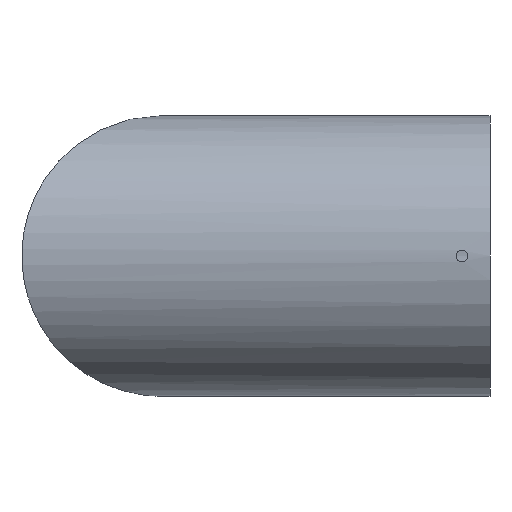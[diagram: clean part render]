
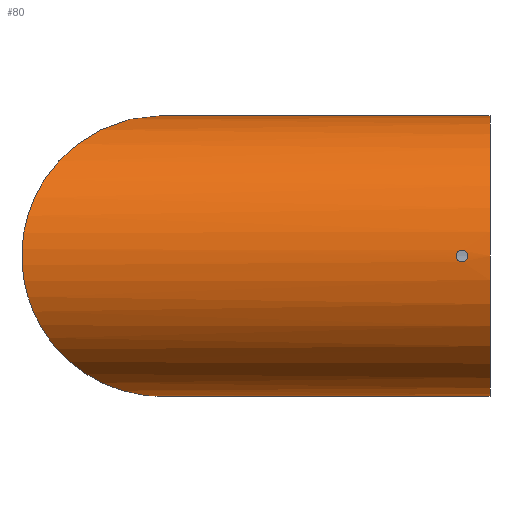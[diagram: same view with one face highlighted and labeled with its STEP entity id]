
A CAD part, left-side view. The second image highlights one B-rep face of the part: STEP entity #80.
In plain terms, the highlighted cylindrical face has radius 30 mm (diameter 60 mm), a partial arc.
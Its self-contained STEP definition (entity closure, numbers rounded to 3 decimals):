
#5 = CARTESIAN_POINT ( 'NONE',  ( -29.974, 5.837, -1.25 ) ) ;
#6 = LINE ( 'NONE', #333, #337 ) ;
#7 = CARTESIAN_POINT ( 'NONE',  ( -30., 4.75, 0.164 ) ) ;
#10 = CARTESIAN_POINT ( 'NONE',  ( -29.984, 6.767, -1. ) ) ;
#11 = CARTESIAN_POINT ( 'NONE',  ( -30., 4.75, -0.166 ) ) ;
#13 = CARTESIAN_POINT ( 'NONE',  ( -29.999, 7.217, 0.328 ) ) ;
#24 = CARTESIAN_POINT ( 'NONE',  ( -60., 130., -30. ) ) ;
#31 = ORIENTED_EDGE ( 'NONE', *, *, #44, .T. ) ;
#32 = DIRECTION ( 'NONE',  ( 0., -1., 0. ) ) ;
#40 = CARTESIAN_POINT ( 'NONE',  ( -29.974, 5.835, 1.25 ) ) ;
#43 = CARTESIAN_POINT ( 'NONE',  ( -29.975, 5.673, 1.218 ) ) ;
#44 = EDGE_CURVE ( 'NONE', #382, #323, #6, .T. ) ;
#47 = CARTESIAN_POINT ( 'NONE',  ( -29.975, 6.327, 1.217 ) ) ;
#55 = CARTESIAN_POINT ( 'NONE',  ( 0., 70., -30. ) ) ;
#60 = ORIENTED_EDGE ( 'NONE', *, *, #201, .T. ) ;
#72 = CARTESIAN_POINT ( 'NONE',  ( -29.994, 7.092, -0.629 ) ) ;
#80 = ADVANCED_FACE ( 'NONE', ( #265, #380 ), #182, .T. ) ;
#86 = AXIS2_PLACEMENT_3D ( 'NONE', #238, #122, #354 ) ;
#88 = CARTESIAN_POINT ( 'NONE',  ( 0., 0., 30. ) ) ;
#90 = B_SPLINE_CURVE_WITH_KNOTS ( 'NONE', 3,
 ( #133, #253, #282, #226, #10, #341, #72, #199, #131, #103, #312, #368, #13, #135, #225, #339, #202, #47, #338, #307 ),
 .UNSPECIFIED., .F., .F.,
 ( 4, 2, 2, 2, 2, 2, 2, 2, 2, 4 ),
 ( 0.002, 0.002, 0.003, 0.003, 0.004, 0.004, 0.004, 0.005, 0.005, 0.006 ),
 .UNSPECIFIED. ) ;
#97 = CARTESIAN_POINT ( 'NONE',  ( -29.98, 5.372, -1.093 ) ) ;
#100 = CARTESIAN_POINT ( 'NONE',  ( -29.985, 5.174, 0.941 ) ) ;
#101 = CARTESIAN_POINT ( 'NONE',  ( -29.999, 4.783, -0.328 ) ) ;
#103 = CARTESIAN_POINT ( 'NONE',  ( -30., 7.242, -0.164 ) ) ;
#108 = B_SPLINE_CURVE_WITH_KNOTS ( 'NONE', 3,
 ( #194, #40, #43, #366, #162, #278, #100, #192, #130, #251, #7, #11, #101, #132, #365, #363, #97, #361, #5, #221 ),
 .UNSPECIFIED., .F., .F.,
 ( 4, 2, 2, 2, 2, 2, 2, 2, 2, 4 ),
 ( 0.006, 0.006, 0.007, 0.007, 0.007, 0.008, 0.008, 0.009, 0.009, 0.01 ),
 .UNSPECIFIED. ) ;
#112 = VECTOR ( 'NONE', #32, 1000. ) ;
#122 = DIRECTION ( 'NONE',  ( 0., -1., 0. ) ) ;
#123 = CARTESIAN_POINT ( 'NONE',  ( -60., 130., 30. ) ) ;
#127 = CARTESIAN_POINT ( 'NONE',  ( -29.974, 6., -1.25 ) ) ;
#130 = CARTESIAN_POINT ( 'NONE',  ( -29.994, 4.908, 0.629 ) ) ;
#131 = CARTESIAN_POINT ( 'NONE',  ( -29.998, 7.21, -0.324 ) ) ;
#132 = CARTESIAN_POINT ( 'NONE',  ( -29.994, 4.908, -0.631 ) ) ;
#133 = CARTESIAN_POINT ( 'NONE',  ( -29.974, 6., -1.25 ) ) ;
#134 = CIRCLE ( 'NONE', #254, 30. ) ;
#135 = CARTESIAN_POINT ( 'NONE',  ( -29.994, 7.092, 0.629 ) ) ;
#136 =( BOUNDED_CURVE ( )  B_SPLINE_CURVE ( 3, ( #381, #123, #24, #239 ),
 .UNSPECIFIED., .F., .T. ) 
 B_SPLINE_CURVE_WITH_KNOTS ( ( 4, 4 ),
 ( 1.571, 4.712 ),
 .UNSPECIFIED. ) 
 CURVE ( )  GEOMETRIC_REPRESENTATION_ITEM ( )  RATIONAL_B_SPLINE_CURVE ( ( 1., 0.333, 0.333, 1. ) ) 
 REPRESENTATION_ITEM ( '' )  );
#145 = EDGE_CURVE ( 'NONE', #326, #387, #384, .T. ) ;
#155 = DIRECTION ( 'NONE',  ( 0., 1., 0. ) ) ;
#162 = CARTESIAN_POINT ( 'NONE',  ( -29.98, 5.374, 1.085 ) ) ;
#171 = EDGE_CURVE ( 'NONE', #270, #264, #90, .T. ) ;
#182 = CYLINDRICAL_SURFACE ( 'NONE', #86, 30. ) ;
#187 = ORIENTED_EDGE ( 'NONE', *, *, #281, .T. ) ;
#192 = CARTESIAN_POINT ( 'NONE',  ( -29.99, 5.001, 0.768 ) ) ;
#194 = CARTESIAN_POINT ( 'NONE',  ( -29.974, 6., 1.25 ) ) ;
#199 = CARTESIAN_POINT ( 'NONE',  ( -29.997, 7.186, -0.402 ) ) ;
#201 = EDGE_CURVE ( 'NONE', #264, #270, #108, .T. ) ;
#202 = CARTESIAN_POINT ( 'NONE',  ( -29.98, 6.63, 1.092 ) ) ;
#214 = ORIENTED_EDGE ( 'NONE', *, *, #289, .T. ) ;
#221 = CARTESIAN_POINT ( 'NONE',  ( -29.974, 6., -1.25 ) ) ;
#224 = CARTESIAN_POINT ( 'NONE',  ( -29.974, 6., 1.25 ) ) ;
#225 = CARTESIAN_POINT ( 'NONE',  ( -29.99, 6.999, 0.769 ) ) ;
#226 = CARTESIAN_POINT ( 'NONE',  ( -29.98, 6.63, -1.092 ) ) ;
#238 = CARTESIAN_POINT ( 'NONE',  ( 0., 100., 0. ) ) ;
#239 = CARTESIAN_POINT ( 'NONE',  ( 0., 70., -30. ) ) ;
#242 = CARTESIAN_POINT ( 'NONE',  ( 0., 70., 30. ) ) ;
#243 = ORIENTED_EDGE ( 'NONE', *, *, #171, .T. ) ;
#251 = CARTESIAN_POINT ( 'NONE',  ( -29.999, 4.783, 0.328 ) ) ;
#253 = CARTESIAN_POINT ( 'NONE',  ( -29.974, 6.163, -1.25 ) ) ;
#254 = AXIS2_PLACEMENT_3D ( 'NONE', #294, #155, #292 ) ;
#264 = VERTEX_POINT ( 'NONE', #224 ) ;
#265 = FACE_OUTER_BOUND ( 'NONE', #293, .T. ) ;
#270 = VERTEX_POINT ( 'NONE', #127 ) ;
#273 = DIRECTION ( 'NONE',  ( 0., -1., 0. ) ) ;
#278 = CARTESIAN_POINT ( 'NONE',  ( -29.984, 5.238, 0.994 ) ) ;
#281 = EDGE_CURVE ( 'NONE', #326, #382, #136, .T. ) ;
#282 = CARTESIAN_POINT ( 'NONE',  ( -29.975, 6.327, -1.218 ) ) ;
#289 = EDGE_CURVE ( 'NONE', #323, #387, #134, .T. ) ;
#292 = DIRECTION ( 'NONE',  ( 0., 0., 1. ) ) ;
#293 = EDGE_LOOP ( 'NONE', ( #345, #187, #31, #214 ) ) ;
#294 = CARTESIAN_POINT ( 'NONE',  ( 0., 0., 0. ) ) ;
#298 = EDGE_LOOP ( 'NONE', ( #243, #60 ) ) ;
#307 = CARTESIAN_POINT ( 'NONE',  ( -29.974, 6., 1.25 ) ) ;
#312 = CARTESIAN_POINT ( 'NONE',  ( -30., 7.25, -0.081 ) ) ;
#321 = CARTESIAN_POINT ( 'NONE',  ( 0., 100., 30. ) ) ;
#323 = VERTEX_POINT ( 'NONE', #358 ) ;
#326 = VERTEX_POINT ( 'NONE', #242 ) ;
#333 = CARTESIAN_POINT ( 'NONE',  ( 0., 100., -30. ) ) ;
#337 = VECTOR ( 'NONE', #273, 1000. ) ;
#338 = CARTESIAN_POINT ( 'NONE',  ( -29.974, 6.165, 1.25 ) ) ;
#339 = CARTESIAN_POINT ( 'NONE',  ( -29.984, 6.769, 0.999 ) ) ;
#341 = CARTESIAN_POINT ( 'NONE',  ( -29.99, 7.001, -0.767 ) ) ;
#345 = ORIENTED_EDGE ( 'NONE', *, *, #145, .F. ) ;
#354 = DIRECTION ( 'NONE',  ( 0., 0., -1. ) ) ;
#358 = CARTESIAN_POINT ( 'NONE',  ( 0., 0., -30. ) ) ;
#361 = CARTESIAN_POINT ( 'NONE',  ( -29.975, 5.672, -1.217 ) ) ;
#363 = CARTESIAN_POINT ( 'NONE',  ( -29.984, 5.232, -1. ) ) ;
#365 = CARTESIAN_POINT ( 'NONE',  ( -29.99, 5.001, -0.769 ) ) ;
#366 = CARTESIAN_POINT ( 'NONE',  ( -29.979, 5.446, 1.123 ) ) ;
#368 = CARTESIAN_POINT ( 'NONE',  ( -30., 7.25, 0.164 ) ) ;
#380 = FACE_BOUND ( 'NONE', #298, .T. ) ;
#381 = CARTESIAN_POINT ( 'NONE',  ( 0., 70., 30. ) ) ;
#382 = VERTEX_POINT ( 'NONE', #55 ) ;
#384 = LINE ( 'NONE', #321, #112 ) ;
#387 = VERTEX_POINT ( 'NONE', #88 ) ;
